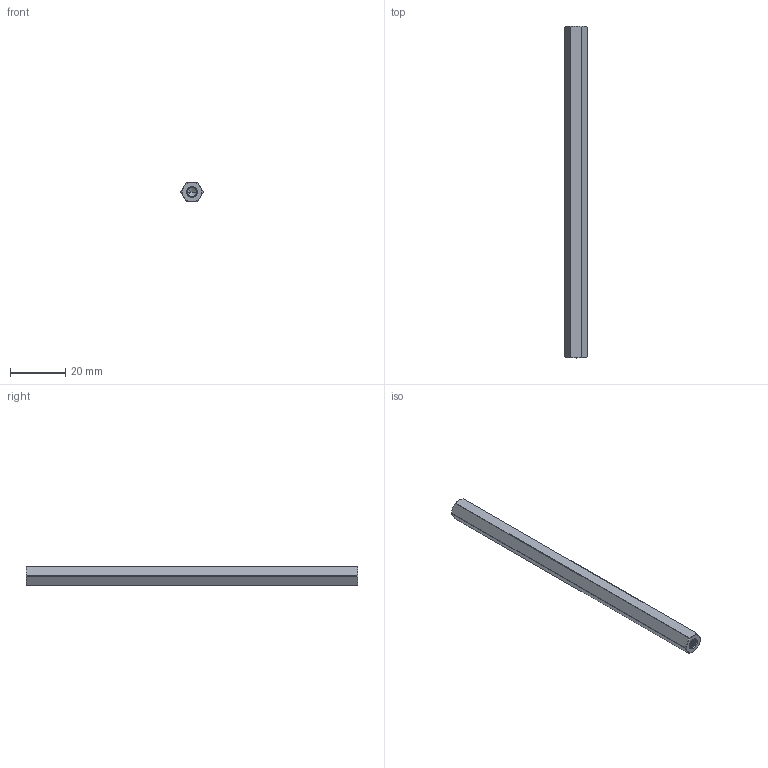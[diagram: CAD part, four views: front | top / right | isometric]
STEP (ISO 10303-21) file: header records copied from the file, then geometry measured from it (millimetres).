
FILE_DESCRIPTION (( 'STEP AP203' ), '1' );
FILE_NAME ('1516-4008-1200.STEP', '2022-08-26T15:04:35', ( '' ), ( '' ), 'SwSTEP 2.0', 'SolidWorks 2016', '' );
FILE_SCHEMA (( 'CONFIG_CONTROL_DESIGN' ));
Length unit declared in the file: millimetre
Products named in the file (1): 1516-4008-1200
Bounding box: 8 x 120 x 7 mm (x, y, z)
Volume: 4873.4 mm3; surface area: 3323.4 mm2
Topology: 1 solids, 1 shells, 148 faces, 422 edges, 274 vertices
Faces by surface type: cylinder 114, cone 20, plane 10, bspline 4
Entity records: 10327 total; most frequent: CARTESIAN_POINT 7087, ORIENTED_EDGE 836, DIRECTION 512, EDGE_CURVE 418, VERTEX_POINT 274, AXIS2_PLACEMENT_3D 193, EDGE_LOOP 150, FACE_OUTER_BOUND 148
